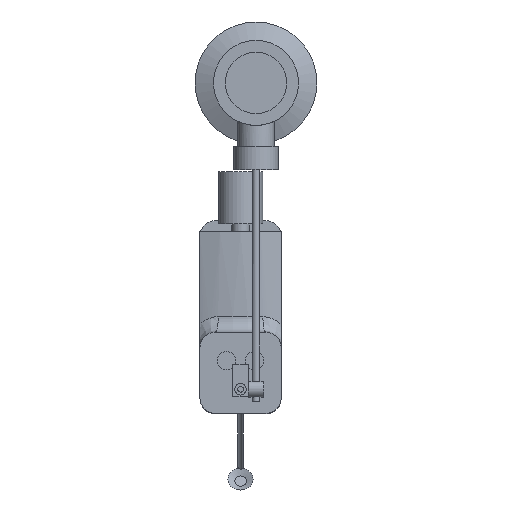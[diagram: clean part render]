
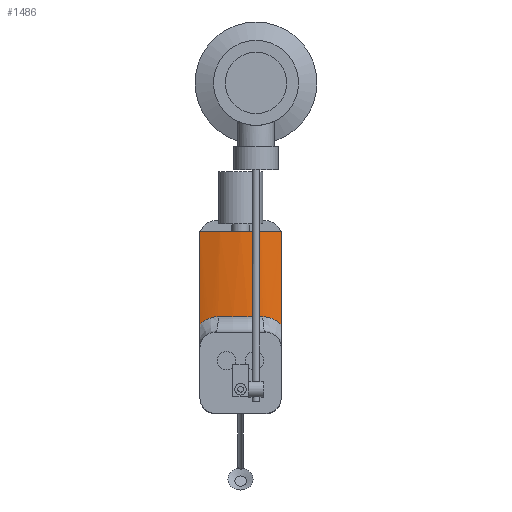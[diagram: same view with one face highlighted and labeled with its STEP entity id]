
A CAD part, front view. The second image highlights one B-rep face of the part: STEP entity #1486.
In plain terms, the highlighted cylindrical face has radius 64.75 mm (diameter 129.5 mm), a partial arc.
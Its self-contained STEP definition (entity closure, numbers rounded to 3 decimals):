
#47=B_SPLINE_CURVE_WITH_KNOTS('',3,(#2478,#2479,#2480,#2481,#2482,#2483,
#2484,#2485,#2486,#2487),.UNSPECIFIED.,.F.,.F.,(4,3,3,4),(2.22,
2.311,2.86,3.41),.UNSPECIFIED.);
#50=B_SPLINE_CURVE_WITH_KNOTS('',3,(#2591,#2592,#2593,#2594,#2595,#2596),
 .UNSPECIFIED.,.F.,.F.,(4,1,1,4),(10.172,10.722,11.272,
11.363),.UNSPECIFIED.);
#93=LINE('',#2599,#186);
#94=LINE('',#2602,#187);
#186=VECTOR('',#1920,10.);
#187=VECTOR('',#1923,10.);
#258=CYLINDRICAL_SURFACE('',#1629,64.75);
#308=FACE_OUTER_BOUND('',#400,.T.);
#400=EDGE_LOOP('',(#1090,#1091,#1092,#1093,#1094,#1095));
#505=CIRCLE('',#1628,64.75);
#506=CIRCLE('',#1630,64.75);
#628=VERTEX_POINT('',#2456);
#631=VERTEX_POINT('',#2467);
#632=VERTEX_POINT('',#2489);
#634=VERTEX_POINT('',#2536);
#636=VERTEX_POINT('',#2598);
#637=VERTEX_POINT('',#2600);
#805=EDGE_CURVE('',#631,#628,#47,.T.);
#808=EDGE_CURVE('',#628,#632,#505,.T.);
#811=EDGE_CURVE('',#632,#634,#50,.T.);
#812=EDGE_CURVE('',#631,#636,#93,.T.);
#813=EDGE_CURVE('',#637,#636,#506,.T.);
#814=EDGE_CURVE('',#634,#637,#94,.T.);
#1090=ORIENTED_EDGE('',*,*,#811,.F.);
#1091=ORIENTED_EDGE('',*,*,#808,.F.);
#1092=ORIENTED_EDGE('',*,*,#805,.F.);
#1093=ORIENTED_EDGE('',*,*,#812,.T.);
#1094=ORIENTED_EDGE('',*,*,#813,.F.);
#1095=ORIENTED_EDGE('',*,*,#814,.F.);
#1486=ADVANCED_FACE('',(#308),#258,.T.);
#1628=AXIS2_PLACEMENT_3D('',#2493,#1916,#1917);
#1629=AXIS2_PLACEMENT_3D('',#2597,#1918,#1919);
#1630=AXIS2_PLACEMENT_3D('',#2601,#1921,#1922);
#1916=DIRECTION('center_axis',(0.,0.,
-1.));
#1917=DIRECTION('ref_axis',(0.,-1.,0.));
#1918=DIRECTION('center_axis',(0.,0.,
1.));
#1919=DIRECTION('ref_axis',(0.324,-0.946,0.));
#1920=DIRECTION('',(0.,0.,1.));
#1921=DIRECTION('center_axis',(0.,0.,
1.));
#1922=DIRECTION('ref_axis',(0.324,-0.946,0.));
#1923=DIRECTION('',(0.,0.,1.));
#2456=CARTESIAN_POINT('',(-146.43,-28.958,-113.));
#2467=CARTESIAN_POINT('',(-137.,-26.5,-117.01));
#2478=CARTESIAN_POINT('Ctrl Pts',(-137.001,-26.501,-117.011));
#2479=CARTESIAN_POINT('Ctrl Pts',(-137.197,-26.568,-116.816));
#2480=CARTESIAN_POINT('Ctrl Pts',(-137.397,-26.636,-116.628));
#2481=CARTESIAN_POINT('Ctrl Pts',(-137.602,-26.704,-116.446));
#2482=CARTESIAN_POINT('Ctrl Pts',(-138.841,-27.115,-115.346));
#2483=CARTESIAN_POINT('Ctrl Pts',(-140.24,-27.536,-114.481));
#2484=CARTESIAN_POINT('Ctrl Pts',(-141.736,-27.924,-113.895));
#2485=CARTESIAN_POINT('Ctrl Pts',(-143.232,-28.312,-113.308));
#2486=CARTESIAN_POINT('Ctrl Pts',(-144.824,-28.666,-113.));
#2487=CARTESIAN_POINT('Ctrl Pts',(-146.43,-28.958,-113.));
#2489=CARTESIAN_POINT('',(-169.57,-28.958,-113.));
#2493=CARTESIAN_POINT('Origin',(-158.,34.75,-113.));
#2536=CARTESIAN_POINT('',(-179.,-26.5,-117.01));
#2591=CARTESIAN_POINT('Ctrl Pts',(-169.57,-28.958,-113.));
#2592=CARTESIAN_POINT('Ctrl Pts',(-171.176,-28.666,-113.));
#2593=CARTESIAN_POINT('Ctrl Pts',(-174.361,-27.958,-113.617));
#2594=CARTESIAN_POINT('Ctrl Pts',(-177.39,-27.045,-115.489));
#2595=CARTESIAN_POINT('Ctrl Pts',(-178.803,-26.568,-116.816));
#2596=CARTESIAN_POINT('Ctrl Pts',(-178.999,-26.501,-117.011));
#2597=CARTESIAN_POINT('Origin',(-158.,34.75,-163.));
#2598=CARTESIAN_POINT('',(-137.,-26.5,-69.));
#2599=CARTESIAN_POINT('',(-137.,-26.5,-163.));
#2600=CARTESIAN_POINT('',(-179.,-26.5,-69.));
#2601=CARTESIAN_POINT('Origin',(-158.,34.75,-69.));
#2602=CARTESIAN_POINT('',(-179.,-26.5,-163.));
